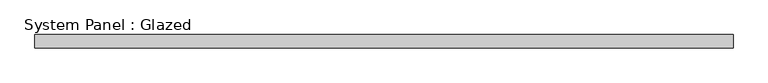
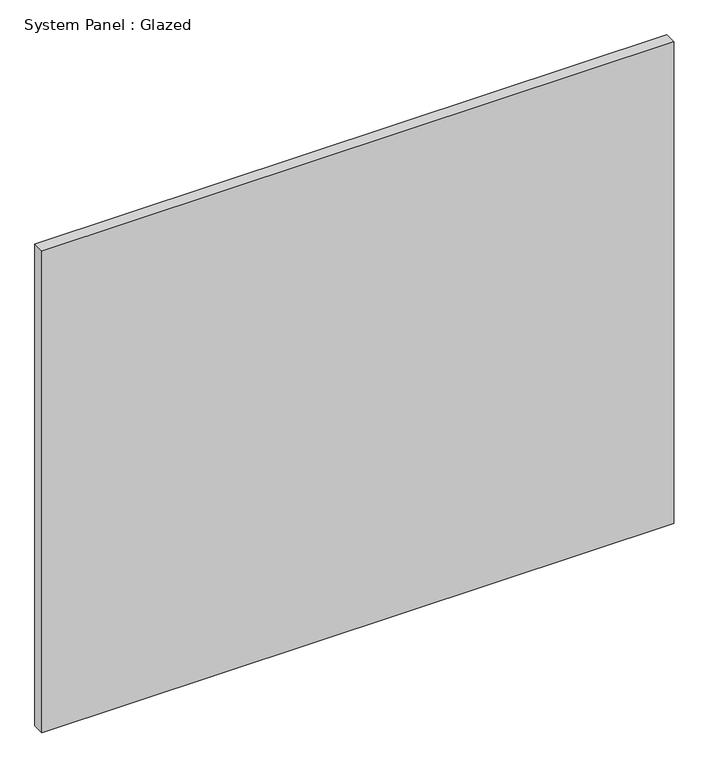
"""IFC4 building model written with IfcOpenShell, lengths in millimetres: plate geometry, System Panel : Glazed."""

from ifc_helpers import new_model, si_unit, origin, origin_with_axes, place, context, project, spatial, polyline, outline, extrude, source, transform, mapped, element, save


def system_panel_glazed_a31c2437(model_context):
    return source(origin(), model_context, "Body", "SweptSolid", [
        extrude(outline(polyline([(661.0330663, 19.05), (-661.0330663, 19.05), (-661.0330663, 44.45), (661.0330663, 44.45), (661.0330663, 19.05)])), origin_with_axes(), (0.0, 0.0, 1.0), 1066.0767085),
    ])


if __name__ == "__main__":
    model = new_model("IFC4")
    model_context = context("Model", 3, world=origin())
    ifc_project = project(units=[si_unit("LENGTHUNIT", "METRE", prefix="MILLI")], contexts=[model_context])
    site = spatial("IfcSite", under=ifc_project)
    building = spatial("IfcBuilding", under=site)
    placement = place(None, origin())
    system_panel_glazed_shape = system_panel_glazed_a31c2437(model_context)
    element("IfcPlate", 1, ObjectType="System Panel : Glazed", at=placement, inside=building, context=model_context, shape_type="MappedRepresentation", body=[
        mapped(system_panel_glazed_shape, transform((0.0, 0.0, 0.0), x_axis=(1.0, 0.0, 0.0), y_axis=(0.0, 1.0, 0.0), z_axis=(0.0, 0.0, 1.0))),
    ])
    save(model, "model.ifc")
